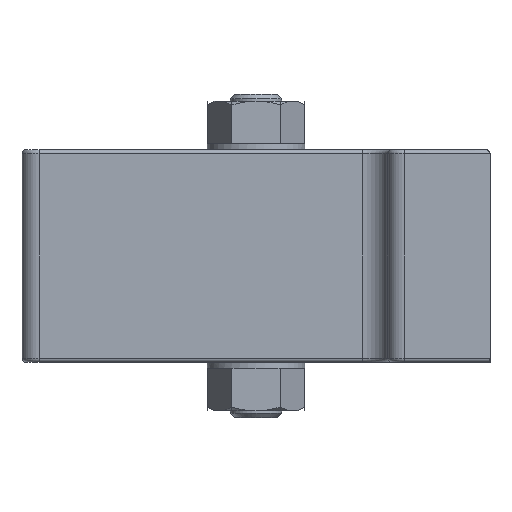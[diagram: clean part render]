
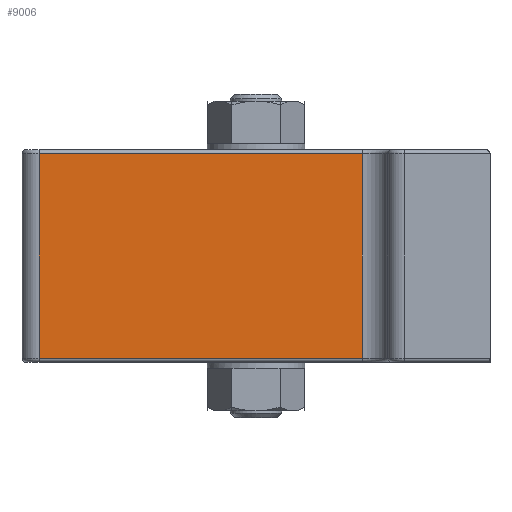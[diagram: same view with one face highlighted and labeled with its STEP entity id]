
A CAD part, left-side view. The second image highlights one B-rep face of the part: STEP entity #9006.
In plain terms, the highlighted planar face has unit normal (-1, 0, 0).
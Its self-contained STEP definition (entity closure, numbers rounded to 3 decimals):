
#8687=CARTESIAN_POINT('',(-27.5,25.5,-12.0));
#8688=VERTEX_POINT('',#8687);
#8753=CARTESIAN_POINT('',(-27.5,-12.5,-12.0));
#8754=VERTEX_POINT('',#8753);
#8762=CARTESIAN_POINT('',(-27.5,-12.5,-12.0));
#8763=DIRECTION('',(0.0,1.0,0.0));
#8764=VECTOR('',#8763,38.);
#8765=LINE('',#8762,#8764);
#8766=EDGE_CURVE('',#8754,#8688,#8765,.T.);
#8976=CARTESIAN_POINT('',(-27.5,-12.5,0.0));
#8977=DIRECTION('',(-1.0,0.0,0.0));
#8978=DIRECTION('',(0.0,0.0,1.0));
#8979=AXIS2_PLACEMENT_3D('',#8976,#8977,#8978);
#8980=PLANE('',#8979);
#8981=ORIENTED_EDGE('',*,*,#8766,.F.);
#8982=CARTESIAN_POINT('',(-27.5,-12.5,12.0));
#8983=VERTEX_POINT('',#8982);
#8984=CARTESIAN_POINT('',(-27.5,-12.5,12.0));
#8985=DIRECTION('',(0.0,0.0,-1.0));
#8986=VECTOR('',#8985,24.0);
#8987=LINE('',#8984,#8986);
#8988=EDGE_CURVE('',#8983,#8754,#8987,.T.);
#8989=ORIENTED_EDGE('',*,*,#8988,.F.);
#8990=CARTESIAN_POINT('',(-27.5,25.5,12.0));
#8991=VERTEX_POINT('',#8990);
#8992=CARTESIAN_POINT('',(-27.5,25.5,12.0));
#8993=DIRECTION('',(0.0,-1.0,0.0));
#8994=VECTOR('',#8993,38.);
#8995=LINE('',#8992,#8994);
#8996=EDGE_CURVE('',#8991,#8983,#8995,.T.);
#8997=ORIENTED_EDGE('',*,*,#8996,.F.);
#8998=CARTESIAN_POINT('',(-27.5,25.5,12.0));
#8999=DIRECTION('',(0.0,0.0,-1.0));
#9000=VECTOR('',#8999,24.0);
#9001=LINE('',#8998,#9000);
#9002=EDGE_CURVE('',#8991,#8688,#9001,.T.);
#9003=ORIENTED_EDGE('',*,*,#9002,.T.);
#9004=EDGE_LOOP('',(#8981,#8989,#8997,#9003));
#9005=FACE_OUTER_BOUND('',#9004,.T.);
#9006=ADVANCED_FACE('',(#9005),#8980,.T.);
